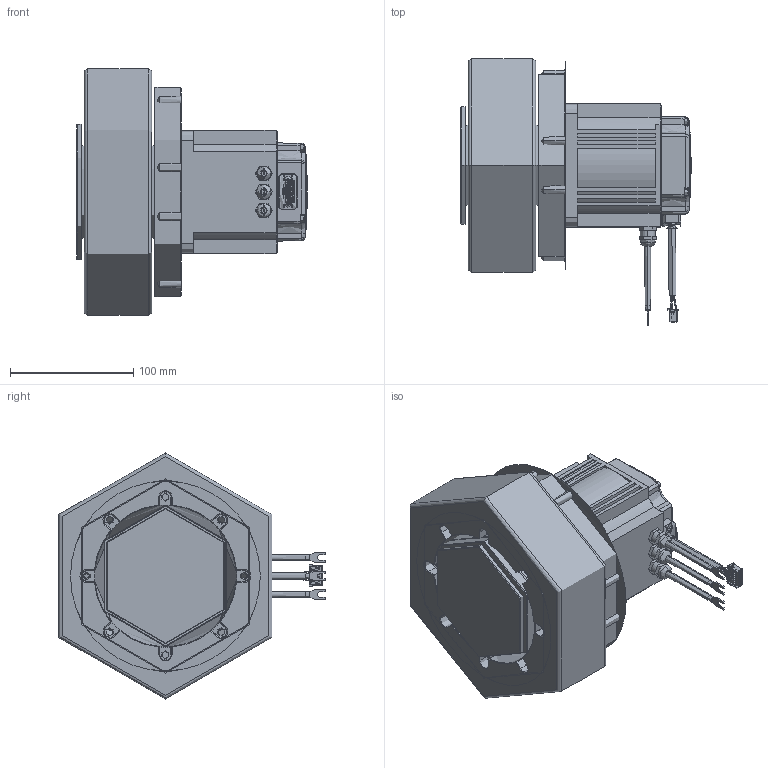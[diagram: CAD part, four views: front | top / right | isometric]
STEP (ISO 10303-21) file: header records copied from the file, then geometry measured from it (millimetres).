
FILE_DESCRIPTION((''),'2;1');
FILE_NAME('AEQ-115C-020-10-22-XX-95-115-M8_ASM','2025-03-07T14:05:07',('ms15079'),(''),'CREO PARAMETRIC BY PTC INC, 2018100','CREO PARAMETRIC BY PTC INC, 2018100','');
FILE_SCHEMA(('CONFIG_CONTROL_DESIGN'));
Length unit declared in the file: millimetre
Products named in the file (5): AEQ-115-H55-W200_1; AEQ-115C-020-10-22-95-115-M8; AEQ-115C-020-10-22-95-115-M8-H5_ASM; PRT0003; AEQ-115C-020-10-22-XX-95-115-M8_ASM
Assembly tree (4 placements, depth 3):
  AEQ-115C-020-10-22-XX-95-115-M8_ASM
    AEQ-115C-020-10-22-95-115-M8-H5_ASM
      AEQ-115-H55-W200_1
      AEQ-115C-020-10-22-95-115-M8
    PRT0003
Bounding box: 187.3 x 216.4 x 200 mm (x, y, z)
Topology: 2 solids, 46 shells, 1629 faces, 4053 edges, 2543 vertices
Faces by surface type: plane 884, cylinder 359, cone 229, torus 75, bspline 62, extrusion 10, sphere 10
Full cylindrical faces by diameter (mm): 2.551 x1
Entity records: 52779 total; most frequent: CARTESIAN_POINT 14034, DIRECTION 7994, ORIENTED_EDGE 7938, EDGE_CURVE 3995, AXIS2_PLACEMENT_3D 2752, VERTEX_POINT 2544, VECTOR 2490, LINE 2480
